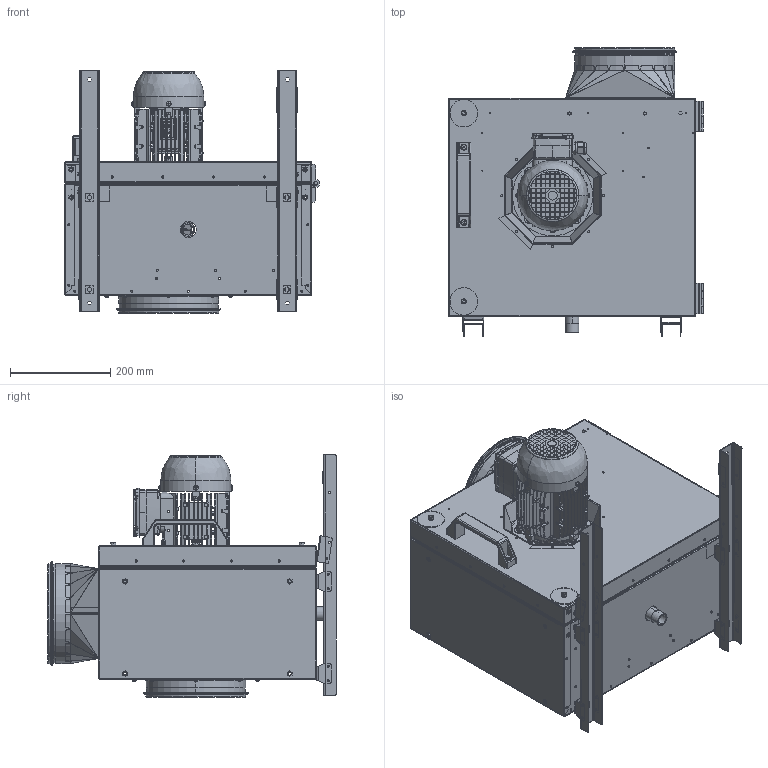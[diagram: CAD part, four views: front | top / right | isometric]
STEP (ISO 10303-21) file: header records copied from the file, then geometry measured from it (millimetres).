
FILE_DESCRIPTION (( 'STEP AP203' ), '1' );
FILE_NAME ('145815-00_MPS225D2F430_step.step', '2018-10-09T10:11:16', ( '' ), ( '' ), 'SwSTEP 2.0', 'SolidWorks 2017', '' );
FILE_SCHEMA (( 'CONFIG_CONTROL_DESIGN' ));
Products named in the file (1): 145815-00_MPS225D2F430_step
Bounding box: 507.1 x 574.18 x 483 mm (x, y, z)
Surface area: 3877393.6 mm2 (no closed solid volume)
Topology: 0 solids, 180 shells, 2691 faces, 11060 edges, 8224 vertices
Faces by surface type: plane 1539, cylinder 836, bspline 148, cone 96, torus 72
Entity records: 136777 total; most frequent: CARTESIAN_POINT 48550, DIRECTION 17465, ORIENTED_EDGE 16050, EDGE_CURVE 11060, VERTEX_POINT 8224, VECTOR 6983, LINE 6983, AXIS2_PLACEMENT_3D 5241
